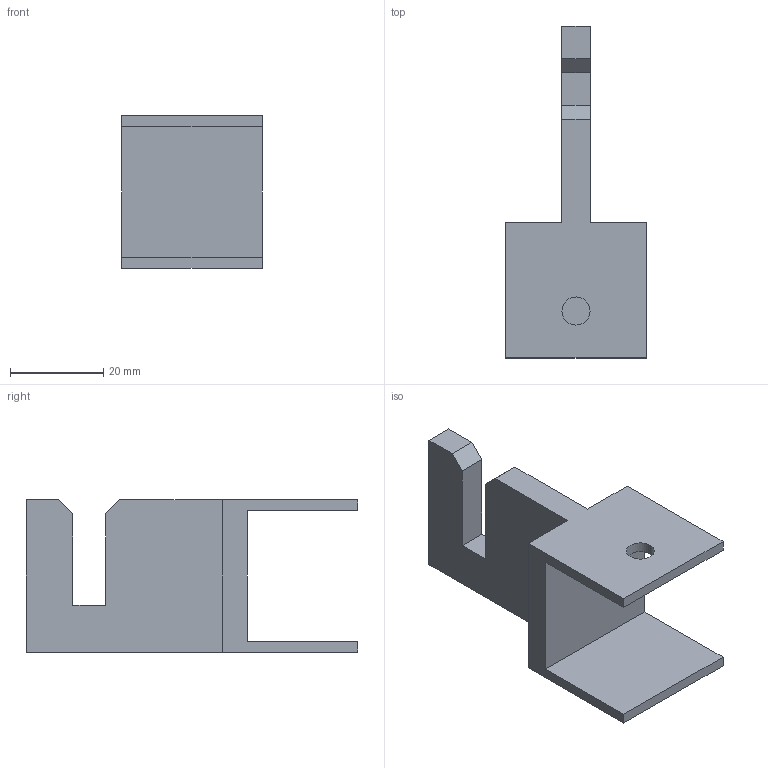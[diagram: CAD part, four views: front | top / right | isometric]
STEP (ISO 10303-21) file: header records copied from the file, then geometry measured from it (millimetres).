
FILE_DESCRIPTION (( 'STEP AP214' ), '1' );
FILE_NAME ('JB-552B.step', '2023-12-26T01:15:25', ( 'catia' ), ( 'HP Inc.' ), 'SwSTEP 2.0', 'SolidWorks 2021', '' );
FILE_SCHEMA (( 'AUTOMOTIVE_DESIGN' ));
Length unit declared in the file: millimetre
Products named in the file (1): JB-552B
Bounding box: 30 x 71 x 32.6 mm (x, y, z)
Volume: 15601 mm3; surface area: 8826.5 mm2
Topology: 1 solids, 1 shells, 22 faces, 60 edges, 40 vertices
Faces by surface type: plane 20, cylinder 2
Entity records: 726 total; most frequent: CARTESIAN_POINT 123, ORIENTED_EDGE 120, DIRECTION 110, EDGE_CURVE 60, LINE 56, VECTOR 56, VERTEX_POINT 40, AXIS2_PLACEMENT_3D 27
